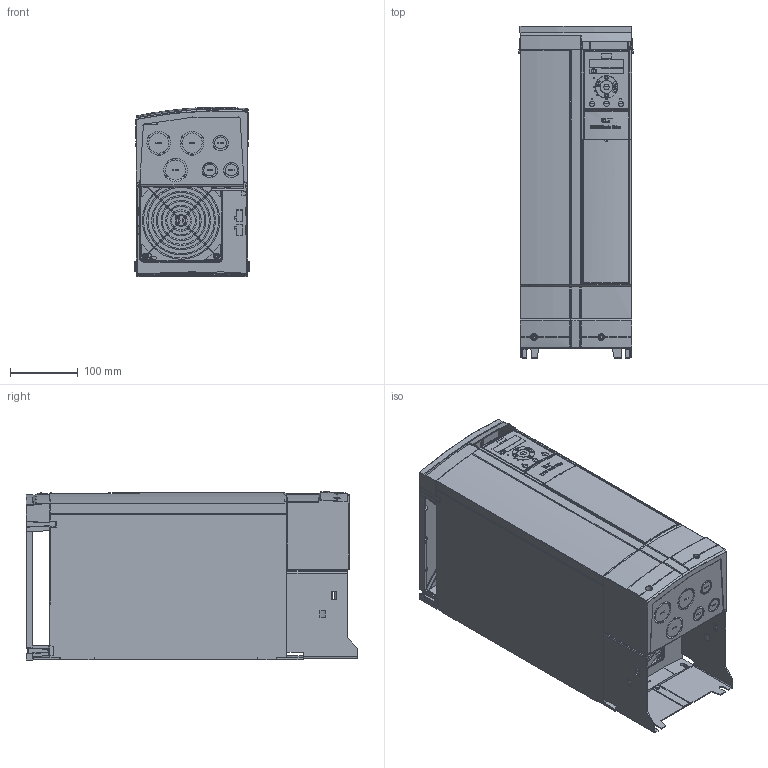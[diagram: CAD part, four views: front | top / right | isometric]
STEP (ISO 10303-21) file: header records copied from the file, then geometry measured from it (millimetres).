
FILE_DESCRIPTION((''),'2;1');
FILE_NAME('H10-IP21','2012-11-22T',('u243993'),('Danfoss Power Electronics'),'PRO/ENGINEER BY PARAMETRIC TECHNOLOGY CORPORATION, 2011490','PRO/ENGINEER BY PARAMETRIC TECHNOLOGY CORPORATION, 2011490','');
FILE_SCHEMA(('CONFIG_CONTROL_DESIGN', 'GEOMETRIC_VALIDATION_PROPERTIES_MIM'));
Products named in the file (1): H10-IP21
Bounding box: 169.82 x 490.45 x 250.15 mm (x, y, z)
Volume: 101854.3 mm3; surface area: 832197.9 mm2
Topology: 3 solids, 8 shells, 5584 faces, 13793 edges, 8168 vertices
Faces by surface type: plane 2191, cylinder 1911, bspline 449, torus 443, sphere 359, extrusion 133, cone 98
Entity records: 217493 total; most frequent: CARTESIAN_POINT 59211, ORIENTED_EDGE 27177, DIRECTION 25822, EDGE_CURVE 13635, AXIS2_PLACEMENT_3D 9401, PRESENTATION_STYLE_ASSIGNMENT 9159, STYLED_ITEM 8993, CURVE_STYLE 8367
